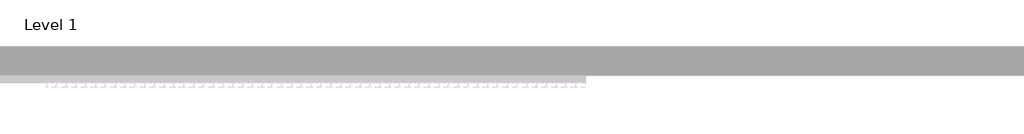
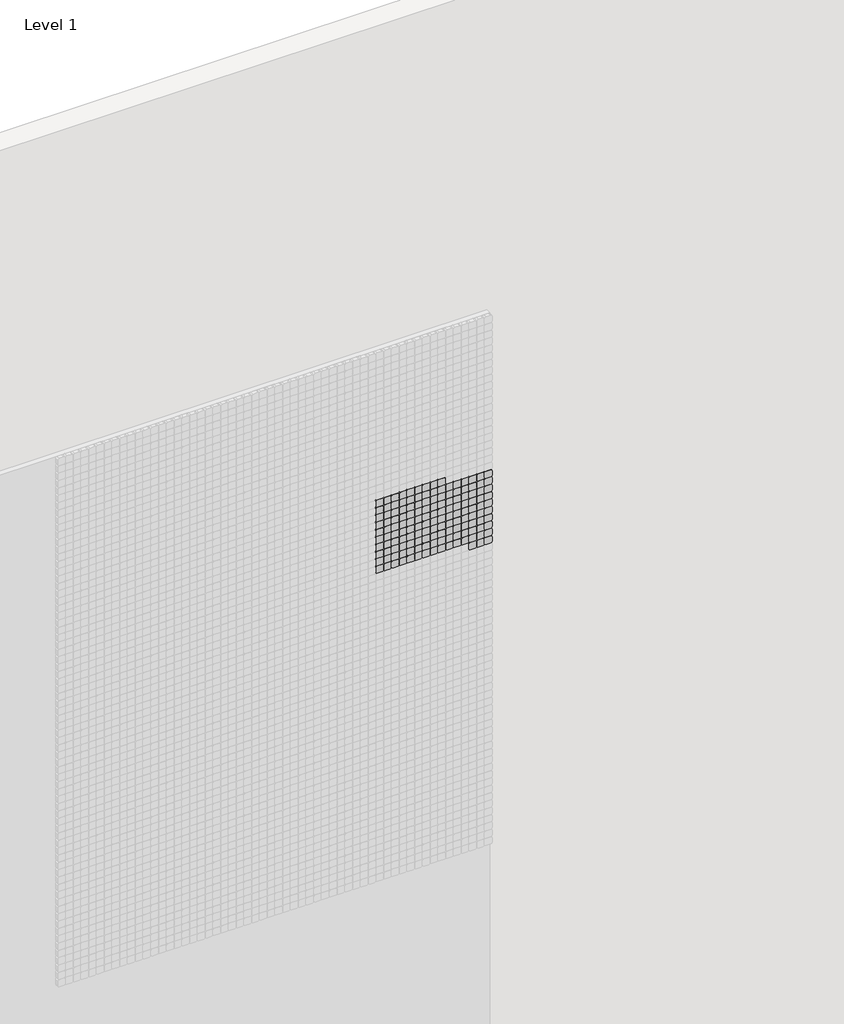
# One storey, part 64 of 71: 147 proxies.
"""IFC4 building model written with IfcOpenShell, lengths in millimetres."""

from ifc_helpers import new_model, si_unit, origin, place, context, project, spatial, transform, mapped, element, save
from components import generic_models_afde289c

model = new_model("IFC4")

# Units and contexts
model_context = context("Model", 3, world=origin())
ifc_project = project(units=[si_unit("LENGTHUNIT", "METRE", prefix="MILLI")], contexts=[model_context])

# Site, building, storey
site = spatial("IfcSite", under=ifc_project)
building = spatial("IfcBuilding", under=site)
storey = spatial("IfcBuildingStorey", under=building, Name="Level 1", Elevation=0.0)

# Proxies
placement = place(None, origin())
generic_models_shape = generic_models_afde289c(model_context)
element("IfcBuildingElementProxy", 1, Name="Pixel_M : Pixel_M", ObjectType="Pixel_M : Pixel_M", at=placement, inside=storey, context=model_context, shape_type="MappedRepresentation", body=[
    mapped(generic_models_shape, transform((9412.4280941, -75.0, 4966.3566215), x_axis=(1.0, 0.0, 0.0), y_axis=(0.0, 0.0, 1.0), z_axis=(0.0, -1.0, 0.0))),
])
element("IfcBuildingElementProxy", 2, Name="Pixel_M : Pixel_M", ObjectType="Pixel_M : Pixel_M", at=placement, inside=storey, context=model_context, shape_type="MappedRepresentation", body=[
    mapped(generic_models_shape, transform((9362.4280941, -75.0, 4966.3566215), x_axis=(1.0, 0.0, 0.0), y_axis=(0.0, 0.0, 1.0), z_axis=(0.0, -1.0, 0.0))),
])
element("IfcBuildingElementProxy", 3, Name="Pixel_M : Pixel_M", ObjectType="Pixel_M : Pixel_M", at=placement, inside=storey, context=model_context, shape_type="MappedRepresentation", body=[
    mapped(generic_models_shape, transform((9312.4280941, -75.0, 4966.3566215), x_axis=(1.0, 0.0, 0.0), y_axis=(0.0, 0.0, 1.0), z_axis=(0.0, -1.0, 0.0))),
])
element("IfcBuildingElementProxy", 4, Name="Pixel_M : Pixel_M", ObjectType="Pixel_M : Pixel_M", at=placement, inside=storey, context=model_context, shape_type="MappedRepresentation", body=[
    mapped(generic_models_shape, transform((9262.4280941, -75.0, 4966.3566215), x_axis=(1.0, 0.0, 0.0), y_axis=(0.0, 0.0, 1.0), z_axis=(0.0, -1.0, 0.0))),
])
element("IfcBuildingElementProxy", 5, Name="Pixel_M : Pixel_M", ObjectType="Pixel_M : Pixel_M", at=placement, inside=storey, context=model_context, shape_type="MappedRepresentation", body=[
    mapped(generic_models_shape, transform((9212.4280941, -75.0, 4966.3566215), x_axis=(1.0, 0.0, 0.0), y_axis=(0.0, 0.0, 1.0), z_axis=(0.0, -1.0, 0.0))),
])
element("IfcBuildingElementProxy", 6, Name="Pixel_M : Pixel_M", ObjectType="Pixel_M : Pixel_M", at=placement, inside=storey, context=model_context, shape_type="MappedRepresentation", body=[
    mapped(generic_models_shape, transform((9162.4280941, -75.0, 4966.3566215), x_axis=(1.0, 0.0, 0.0), y_axis=(0.0, 0.0, 1.0), z_axis=(0.0, -1.0, 0.0))),
])
element("IfcBuildingElementProxy", 7, Name="Pixel_M : Pixel_M", ObjectType="Pixel_M : Pixel_M", at=placement, inside=storey, context=model_context, shape_type="MappedRepresentation", body=[
    mapped(generic_models_shape, transform((9112.4280941, -75.0, 4966.3566215), x_axis=(1.0, 0.0, 0.0), y_axis=(0.0, 0.0, 1.0), z_axis=(0.0, -1.0, 0.0))),
])
element("IfcBuildingElementProxy", 8, Name="Pixel_M : Pixel_M", ObjectType="Pixel_M : Pixel_M", at=placement, inside=storey, context=model_context, shape_type="MappedRepresentation", body=[
    mapped(generic_models_shape, transform((9062.4280941, -75.0, 4966.3566215), x_axis=(1.0, 0.0, 0.0), y_axis=(0.0, 0.0, 1.0), z_axis=(0.0, -1.0, 0.0))),
])
element("IfcBuildingElementProxy", 9, Name="Pixel_M : Pixel_M", ObjectType="Pixel_M : Pixel_M", at=placement, inside=storey, context=model_context, shape_type="MappedRepresentation", body=[
    mapped(generic_models_shape, transform((9012.4280941, -75.0, 4966.3566215), x_axis=(1.0, 0.0, 0.0), y_axis=(0.0, 0.0, 1.0), z_axis=(0.0, -1.0, 0.0))),
])
element("IfcBuildingElementProxy", 10, Name="Pixel_M : Pixel_M", ObjectType="Pixel_M : Pixel_M", at=placement, inside=storey, context=model_context, shape_type="MappedRepresentation", body=[
    mapped(generic_models_shape, transform((9712.4280941, -75.0, 4916.3566215), x_axis=(1.0, 0.0, 0.0), y_axis=(0.0, 0.0, 1.0), z_axis=(0.0, -1.0, 0.0))),
])
element("IfcBuildingElementProxy", 11, Name="Pixel_M : Pixel_M", ObjectType="Pixel_M : Pixel_M", at=placement, inside=storey, context=model_context, shape_type="MappedRepresentation", body=[
    mapped(generic_models_shape, transform((9662.4280941, -75.0, 4916.3566215), x_axis=(1.0, 0.0, 0.0), y_axis=(0.0, 0.0, 1.0), z_axis=(0.0, -1.0, 0.0))),
])
element("IfcBuildingElementProxy", 12, Name="Pixel_M : Pixel_M", ObjectType="Pixel_M : Pixel_M", at=placement, inside=storey, context=model_context, shape_type="MappedRepresentation", body=[
    mapped(generic_models_shape, transform((9612.4280941, -75.0, 4916.3566215), x_axis=(1.0, 0.0, 0.0), y_axis=(0.0, 0.0, 1.0), z_axis=(0.0, -1.0, 0.0))),
])
element("IfcBuildingElementProxy", 13, Name="Pixel_M : Pixel_M", ObjectType="Pixel_M : Pixel_M", at=placement, inside=storey, context=model_context, shape_type="MappedRepresentation", body=[
    mapped(generic_models_shape, transform((9562.4280941, -75.0, 4916.3566215), x_axis=(1.0, 0.0, 0.0), y_axis=(0.0, 0.0, 1.0), z_axis=(0.0, -1.0, 0.0))),
])
element("IfcBuildingElementProxy", 14, Name="Pixel_M : Pixel_M", ObjectType="Pixel_M : Pixel_M", at=placement, inside=storey, context=model_context, shape_type="MappedRepresentation", body=[
    mapped(generic_models_shape, transform((9512.4280941, -75.0, 4916.3566215), x_axis=(1.0, 0.0, 0.0), y_axis=(0.0, 0.0, 1.0), z_axis=(0.0, -1.0, 0.0))),
])
element("IfcBuildingElementProxy", 15, Name="Pixel_M : Pixel_M", ObjectType="Pixel_M : Pixel_M", at=placement, inside=storey, context=model_context, shape_type="MappedRepresentation", body=[
    mapped(generic_models_shape, transform((9462.4280941, -75.0, 4916.3566215), x_axis=(1.0, 0.0, 0.0), y_axis=(0.0, 0.0, 1.0), z_axis=(0.0, -1.0, 0.0))),
])
element("IfcBuildingElementProxy", 16, Name="Pixel_M : Pixel_M", ObjectType="Pixel_M : Pixel_M", at=placement, inside=storey, context=model_context, shape_type="MappedRepresentation", body=[
    mapped(generic_models_shape, transform((9412.4280941, -75.0, 4916.3566215), x_axis=(1.0, 0.0, 0.0), y_axis=(0.0, 0.0, 1.0), z_axis=(0.0, -1.0, 0.0))),
])
element("IfcBuildingElementProxy", 17, Name="Pixel_M : Pixel_M", ObjectType="Pixel_M : Pixel_M", at=placement, inside=storey, context=model_context, shape_type="MappedRepresentation", body=[
    mapped(generic_models_shape, transform((9362.4280941, -75.0, 4916.3566215), x_axis=(1.0, 0.0, 0.0), y_axis=(0.0, 0.0, 1.0), z_axis=(0.0, -1.0, 0.0))),
])
element("IfcBuildingElementProxy", 18, Name="Pixel_M : Pixel_M", ObjectType="Pixel_M : Pixel_M", at=placement, inside=storey, context=model_context, shape_type="MappedRepresentation", body=[
    mapped(generic_models_shape, transform((9312.4280941, -75.0, 4916.3566215), x_axis=(1.0, 0.0, 0.0), y_axis=(0.0, 0.0, 1.0), z_axis=(0.0, -1.0, 0.0))),
])
element("IfcBuildingElementProxy", 19, Name="Pixel_M : Pixel_M", ObjectType="Pixel_M : Pixel_M", at=placement, inside=storey, context=model_context, shape_type="MappedRepresentation", body=[
    mapped(generic_models_shape, transform((9262.4280941, -75.0, 4916.3566215), x_axis=(1.0, 0.0, 0.0), y_axis=(0.0, 0.0, 1.0), z_axis=(0.0, -1.0, 0.0))),
])
element("IfcBuildingElementProxy", 20, Name="Pixel_M : Pixel_M", ObjectType="Pixel_M : Pixel_M", at=placement, inside=storey, context=model_context, shape_type="MappedRepresentation", body=[
    mapped(generic_models_shape, transform((9212.4280941, -75.0, 4916.3566215), x_axis=(1.0, 0.0, 0.0), y_axis=(0.0, 0.0, 1.0), z_axis=(0.0, -1.0, 0.0))),
])
element("IfcBuildingElementProxy", 21, Name="Pixel_M : Pixel_M", ObjectType="Pixel_M : Pixel_M", at=placement, inside=storey, context=model_context, shape_type="MappedRepresentation", body=[
    mapped(generic_models_shape, transform((9162.4280941, -75.0, 4916.3566215), x_axis=(1.0, 0.0, 0.0), y_axis=(0.0, 0.0, 1.0), z_axis=(0.0, -1.0, 0.0))),
])
element("IfcBuildingElementProxy", 22, Name="Pixel_M : Pixel_M", ObjectType="Pixel_M : Pixel_M", at=placement, inside=storey, context=model_context, shape_type="MappedRepresentation", body=[
    mapped(generic_models_shape, transform((9112.4280941, -75.0, 4916.3566215), x_axis=(1.0, 0.0, 0.0), y_axis=(0.0, 0.0, 1.0), z_axis=(0.0, -1.0, 0.0))),
])
element("IfcBuildingElementProxy", 23, Name="Pixel_M : Pixel_M", ObjectType="Pixel_M : Pixel_M", at=placement, inside=storey, context=model_context, shape_type="MappedRepresentation", body=[
    mapped(generic_models_shape, transform((9062.4280941, -75.0, 4916.3566215), x_axis=(1.0, 0.0, 0.0), y_axis=(0.0, 0.0, 1.0), z_axis=(0.0, -1.0, 0.0))),
])
element("IfcBuildingElementProxy", 24, Name="Pixel_M : Pixel_M", ObjectType="Pixel_M : Pixel_M", at=placement, inside=storey, context=model_context, shape_type="MappedRepresentation", body=[
    mapped(generic_models_shape, transform((9012.4280941, -75.0, 4916.3566215), x_axis=(1.0, 0.0, 0.0), y_axis=(0.0, 0.0, 1.0), z_axis=(0.0, -1.0, 0.0))),
])
element("IfcBuildingElementProxy", 25, Name="Pixel_M : Pixel_M", ObjectType="Pixel_M : Pixel_M", at=placement, inside=storey, context=model_context, shape_type="MappedRepresentation", body=[
    mapped(generic_models_shape, transform((9712.4280941, -75.0, 4866.3566215), x_axis=(1.0, 0.0, 0.0), y_axis=(0.0, 0.0, 1.0), z_axis=(0.0, -1.0, 0.0))),
])
element("IfcBuildingElementProxy", 26, Name="Pixel_M : Pixel_M", ObjectType="Pixel_M : Pixel_M", at=placement, inside=storey, context=model_context, shape_type="MappedRepresentation", body=[
    mapped(generic_models_shape, transform((9662.4280941, -75.0, 4866.3566215), x_axis=(1.0, 0.0, 0.0), y_axis=(0.0, 0.0, 1.0), z_axis=(0.0, -1.0, 0.0))),
])
element("IfcBuildingElementProxy", 27, Name="Pixel_M : Pixel_M", ObjectType="Pixel_M : Pixel_M", at=placement, inside=storey, context=model_context, shape_type="MappedRepresentation", body=[
    mapped(generic_models_shape, transform((9612.4280941, -75.0, 4866.3566215), x_axis=(1.0, 0.0, 0.0), y_axis=(0.0, 0.0, 1.0), z_axis=(0.0, -1.0, 0.0))),
])
element("IfcBuildingElementProxy", 28, Name="Pixel_M : Pixel_M", ObjectType="Pixel_M : Pixel_M", at=placement, inside=storey, context=model_context, shape_type="MappedRepresentation", body=[
    mapped(generic_models_shape, transform((9562.4280941, -75.0, 4866.3566215), x_axis=(1.0, 0.0, 0.0), y_axis=(0.0, 0.0, 1.0), z_axis=(0.0, -1.0, 0.0))),
])
element("IfcBuildingElementProxy", 29, Name="Pixel_M : Pixel_M", ObjectType="Pixel_M : Pixel_M", at=placement, inside=storey, context=model_context, shape_type="MappedRepresentation", body=[
    mapped(generic_models_shape, transform((9512.4280941, -75.0, 4866.3566215), x_axis=(1.0, 0.0, 0.0), y_axis=(0.0, 0.0, 1.0), z_axis=(0.0, -1.0, 0.0))),
])
element("IfcBuildingElementProxy", 30, Name="Pixel_M : Pixel_M", ObjectType="Pixel_M : Pixel_M", at=placement, inside=storey, context=model_context, shape_type="MappedRepresentation", body=[
    mapped(generic_models_shape, transform((9462.4280941, -75.0, 4866.3566215), x_axis=(1.0, 0.0, 0.0), y_axis=(0.0, 0.0, 1.0), z_axis=(0.0, -1.0, 0.0))),
])
element("IfcBuildingElementProxy", 31, Name="Pixel_M : Pixel_M", ObjectType="Pixel_M : Pixel_M", at=placement, inside=storey, context=model_context, shape_type="MappedRepresentation", body=[
    mapped(generic_models_shape, transform((9412.4280941, -75.0, 4866.3566215), x_axis=(1.0, 0.0, 0.0), y_axis=(0.0, 0.0, 1.0), z_axis=(0.0, -1.0, 0.0))),
])
element("IfcBuildingElementProxy", 32, Name="Pixel_M : Pixel_M", ObjectType="Pixel_M : Pixel_M", at=placement, inside=storey, context=model_context, shape_type="MappedRepresentation", body=[
    mapped(generic_models_shape, transform((9362.4280941, -75.0, 4866.3566215), x_axis=(1.0, 0.0, 0.0), y_axis=(0.0, 0.0, 1.0), z_axis=(0.0, -1.0, 0.0))),
])
element("IfcBuildingElementProxy", 33, Name="Pixel_M : Pixel_M", ObjectType="Pixel_M : Pixel_M", at=placement, inside=storey, context=model_context, shape_type="MappedRepresentation", body=[
    mapped(generic_models_shape, transform((9312.4280941, -75.0, 4866.3566215), x_axis=(1.0, 0.0, 0.0), y_axis=(0.0, 0.0, 1.0), z_axis=(0.0, -1.0, 0.0))),
])
element("IfcBuildingElementProxy", 34, Name="Pixel_M : Pixel_M", ObjectType="Pixel_M : Pixel_M", at=placement, inside=storey, context=model_context, shape_type="MappedRepresentation", body=[
    mapped(generic_models_shape, transform((9262.4280941, -75.0, 4866.3566215), x_axis=(1.0, 0.0, 0.0), y_axis=(0.0, 0.0, 1.0), z_axis=(0.0, -1.0, 0.0))),
])
element("IfcBuildingElementProxy", 35, Name="Pixel_M : Pixel_M", ObjectType="Pixel_M : Pixel_M", at=placement, inside=storey, context=model_context, shape_type="MappedRepresentation", body=[
    mapped(generic_models_shape, transform((9212.4280941, -75.0, 4866.3566215), x_axis=(1.0, 0.0, 0.0), y_axis=(0.0, 0.0, 1.0), z_axis=(0.0, -1.0, 0.0))),
])
element("IfcBuildingElementProxy", 36, Name="Pixel_M : Pixel_M", ObjectType="Pixel_M : Pixel_M", at=placement, inside=storey, context=model_context, shape_type="MappedRepresentation", body=[
    mapped(generic_models_shape, transform((9162.4280941, -75.0, 4866.3566215), x_axis=(1.0, 0.0, 0.0), y_axis=(0.0, 0.0, 1.0), z_axis=(0.0, -1.0, 0.0))),
])
element("IfcBuildingElementProxy", 37, Name="Pixel_M : Pixel_M", ObjectType="Pixel_M : Pixel_M", at=placement, inside=storey, context=model_context, shape_type="MappedRepresentation", body=[
    mapped(generic_models_shape, transform((9112.4280941, -75.0, 4866.3566215), x_axis=(1.0, 0.0, 0.0), y_axis=(0.0, 0.0, 1.0), z_axis=(0.0, -1.0, 0.0))),
])
element("IfcBuildingElementProxy", 38, Name="Pixel_M : Pixel_M", ObjectType="Pixel_M : Pixel_M", at=placement, inside=storey, context=model_context, shape_type="MappedRepresentation", body=[
    mapped(generic_models_shape, transform((9062.4280941, -75.0, 4866.3566215), x_axis=(1.0, 0.0, 0.0), y_axis=(0.0, 0.0, 1.0), z_axis=(0.0, -1.0, 0.0))),
])
element("IfcBuildingElementProxy", 39, Name="Pixel_M : Pixel_M", ObjectType="Pixel_M : Pixel_M", at=placement, inside=storey, context=model_context, shape_type="MappedRepresentation", body=[
    mapped(generic_models_shape, transform((9012.4280941, -75.0, 4866.3566215), x_axis=(1.0, 0.0, 0.0), y_axis=(0.0, 0.0, 1.0), z_axis=(0.0, -1.0, 0.0))),
])
element("IfcBuildingElementProxy", 40, Name="Pixel_M : Pixel_M", ObjectType="Pixel_M : Pixel_M", at=placement, inside=storey, context=model_context, shape_type="MappedRepresentation", body=[
    mapped(generic_models_shape, transform((9712.4280941, -75.0, 4816.3566215), x_axis=(1.0, 0.0, 0.0), y_axis=(0.0, 0.0, 1.0), z_axis=(0.0, -1.0, 0.0))),
])
element("IfcBuildingElementProxy", 41, Name="Pixel_M : Pixel_M", ObjectType="Pixel_M : Pixel_M", at=placement, inside=storey, context=model_context, shape_type="MappedRepresentation", body=[
    mapped(generic_models_shape, transform((9662.4280941, -75.0, 4816.3566215), x_axis=(1.0, 0.0, 0.0), y_axis=(0.0, 0.0, 1.0), z_axis=(0.0, -1.0, 0.0))),
])
element("IfcBuildingElementProxy", 42, Name="Pixel_M : Pixel_M", ObjectType="Pixel_M : Pixel_M", at=placement, inside=storey, context=model_context, shape_type="MappedRepresentation", body=[
    mapped(generic_models_shape, transform((9612.4280941, -75.0, 4816.3566215), x_axis=(1.0, 0.0, 0.0), y_axis=(0.0, 0.0, 1.0), z_axis=(0.0, -1.0, 0.0))),
])
element("IfcBuildingElementProxy", 43, Name="Pixel_M : Pixel_M", ObjectType="Pixel_M : Pixel_M", at=placement, inside=storey, context=model_context, shape_type="MappedRepresentation", body=[
    mapped(generic_models_shape, transform((9562.4280941, -75.0, 4816.3566215), x_axis=(1.0, 0.0, 0.0), y_axis=(0.0, 0.0, 1.0), z_axis=(0.0, -1.0, 0.0))),
])
element("IfcBuildingElementProxy", 44, Name="Pixel_M : Pixel_M", ObjectType="Pixel_M : Pixel_M", at=placement, inside=storey, context=model_context, shape_type="MappedRepresentation", body=[
    mapped(generic_models_shape, transform((9512.4280941, -75.0, 4816.3566215), x_axis=(1.0, 0.0, 0.0), y_axis=(0.0, 0.0, 1.0), z_axis=(0.0, -1.0, 0.0))),
])
element("IfcBuildingElementProxy", 45, Name="Pixel_M : Pixel_M", ObjectType="Pixel_M : Pixel_M", at=placement, inside=storey, context=model_context, shape_type="MappedRepresentation", body=[
    mapped(generic_models_shape, transform((9462.4280941, -75.0, 4816.3566215), x_axis=(1.0, 0.0, 0.0), y_axis=(0.0, 0.0, 1.0), z_axis=(0.0, -1.0, 0.0))),
])
element("IfcBuildingElementProxy", 46, Name="Pixel_M : Pixel_M", ObjectType="Pixel_M : Pixel_M", at=placement, inside=storey, context=model_context, shape_type="MappedRepresentation", body=[
    mapped(generic_models_shape, transform((9412.4280941, -75.0, 4816.3566215), x_axis=(1.0, 0.0, 0.0), y_axis=(0.0, 0.0, 1.0), z_axis=(0.0, -1.0, 0.0))),
])
element("IfcBuildingElementProxy", 47, Name="Pixel_M : Pixel_M", ObjectType="Pixel_M : Pixel_M", at=placement, inside=storey, context=model_context, shape_type="MappedRepresentation", body=[
    mapped(generic_models_shape, transform((9362.4280941, -75.0, 4816.3566215), x_axis=(1.0, 0.0, 0.0), y_axis=(0.0, 0.0, 1.0), z_axis=(0.0, -1.0, 0.0))),
])
element("IfcBuildingElementProxy", 48, Name="Pixel_M : Pixel_M", ObjectType="Pixel_M : Pixel_M", at=placement, inside=storey, context=model_context, shape_type="MappedRepresentation", body=[
    mapped(generic_models_shape, transform((9312.4280941, -75.0, 4816.3566215), x_axis=(1.0, 0.0, 0.0), y_axis=(0.0, 0.0, 1.0), z_axis=(0.0, -1.0, 0.0))),
])
element("IfcBuildingElementProxy", 49, Name="Pixel_M : Pixel_M", ObjectType="Pixel_M : Pixel_M", at=placement, inside=storey, context=model_context, shape_type="MappedRepresentation", body=[
    mapped(generic_models_shape, transform((9262.4280941, -75.0, 4816.3566215), x_axis=(1.0, 0.0, 0.0), y_axis=(0.0, 0.0, 1.0), z_axis=(0.0, -1.0, 0.0))),
])
element("IfcBuildingElementProxy", 50, Name="Pixel_M : Pixel_M", ObjectType="Pixel_M : Pixel_M", at=placement, inside=storey, context=model_context, shape_type="MappedRepresentation", body=[
    mapped(generic_models_shape, transform((9212.4280941, -75.0, 4816.3566215), x_axis=(1.0, 0.0, 0.0), y_axis=(0.0, 0.0, 1.0), z_axis=(0.0, -1.0, 0.0))),
])
element("IfcBuildingElementProxy", 51, Name="Pixel_M : Pixel_M", ObjectType="Pixel_M : Pixel_M", at=placement, inside=storey, context=model_context, shape_type="MappedRepresentation", body=[
    mapped(generic_models_shape, transform((9162.4280941, -75.0, 4816.3566215), x_axis=(1.0, 0.0, 0.0), y_axis=(0.0, 0.0, 1.0), z_axis=(0.0, -1.0, 0.0))),
])
element("IfcBuildingElementProxy", 52, Name="Pixel_M : Pixel_M", ObjectType="Pixel_M : Pixel_M", at=placement, inside=storey, context=model_context, shape_type="MappedRepresentation", body=[
    mapped(generic_models_shape, transform((9112.4280941, -75.0, 4816.3566215), x_axis=(1.0, 0.0, 0.0), y_axis=(0.0, 0.0, 1.0), z_axis=(0.0, -1.0, 0.0))),
])
element("IfcBuildingElementProxy", 53, Name="Pixel_M : Pixel_M", ObjectType="Pixel_M : Pixel_M", at=placement, inside=storey, context=model_context, shape_type="MappedRepresentation", body=[
    mapped(generic_models_shape, transform((9062.4280941, -75.0, 4816.3566215), x_axis=(1.0, 0.0, 0.0), y_axis=(0.0, 0.0, 1.0), z_axis=(0.0, -1.0, 0.0))),
])
element("IfcBuildingElementProxy", 54, Name="Pixel_M : Pixel_M", ObjectType="Pixel_M : Pixel_M", at=placement, inside=storey, context=model_context, shape_type="MappedRepresentation", body=[
    mapped(generic_models_shape, transform((9012.4280941, -75.0, 4816.3566215), x_axis=(1.0, 0.0, 0.0), y_axis=(0.0, 0.0, 1.0), z_axis=(0.0, -1.0, 0.0))),
])
element("IfcBuildingElementProxy", 55, Name="Pixel_M : Pixel_M", ObjectType="Pixel_M : Pixel_M", at=placement, inside=storey, context=model_context, shape_type="MappedRepresentation", body=[
    mapped(generic_models_shape, transform((9712.4280941, -75.0, 4766.3566215), x_axis=(1.0, 0.0, 0.0), y_axis=(0.0, 0.0, 1.0), z_axis=(0.0, -1.0, 0.0))),
])
element("IfcBuildingElementProxy", 56, Name="Pixel_M : Pixel_M", ObjectType="Pixel_M : Pixel_M", at=placement, inside=storey, context=model_context, shape_type="MappedRepresentation", body=[
    mapped(generic_models_shape, transform((9662.4280941, -75.0, 4766.3566215), x_axis=(1.0, 0.0, 0.0), y_axis=(0.0, 0.0, 1.0), z_axis=(0.0, -1.0, 0.0))),
])
element("IfcBuildingElementProxy", 57, Name="Pixel_M : Pixel_M", ObjectType="Pixel_M : Pixel_M", at=placement, inside=storey, context=model_context, shape_type="MappedRepresentation", body=[
    mapped(generic_models_shape, transform((9612.4280941, -75.0, 4766.3566215), x_axis=(1.0, 0.0, 0.0), y_axis=(0.0, 0.0, 1.0), z_axis=(0.0, -1.0, 0.0))),
])
element("IfcBuildingElementProxy", 58, Name="Pixel_M : Pixel_M", ObjectType="Pixel_M : Pixel_M", at=placement, inside=storey, context=model_context, shape_type="MappedRepresentation", body=[
    mapped(generic_models_shape, transform((9562.4280941, -75.0, 4766.3566215), x_axis=(1.0, 0.0, 0.0), y_axis=(0.0, 0.0, 1.0), z_axis=(0.0, -1.0, 0.0))),
])
element("IfcBuildingElementProxy", 59, Name="Pixel_M : Pixel_M", ObjectType="Pixel_M : Pixel_M", at=placement, inside=storey, context=model_context, shape_type="MappedRepresentation", body=[
    mapped(generic_models_shape, transform((9512.4280941, -75.0, 4766.3566215), x_axis=(1.0, 0.0, 0.0), y_axis=(0.0, 0.0, 1.0), z_axis=(0.0, -1.0, 0.0))),
])
element("IfcBuildingElementProxy", 60, Name="Pixel_M : Pixel_M", ObjectType="Pixel_M : Pixel_M", at=placement, inside=storey, context=model_context, shape_type="MappedRepresentation", body=[
    mapped(generic_models_shape, transform((9462.4280941, -75.0, 4766.3566215), x_axis=(1.0, 0.0, 0.0), y_axis=(0.0, 0.0, 1.0), z_axis=(0.0, -1.0, 0.0))),
])
element("IfcBuildingElementProxy", 61, Name="Pixel_M : Pixel_M", ObjectType="Pixel_M : Pixel_M", at=placement, inside=storey, context=model_context, shape_type="MappedRepresentation", body=[
    mapped(generic_models_shape, transform((9412.4280941, -75.0, 4766.3566215), x_axis=(1.0, 0.0, 0.0), y_axis=(0.0, 0.0, 1.0), z_axis=(0.0, -1.0, 0.0))),
])
element("IfcBuildingElementProxy", 62, Name="Pixel_M : Pixel_M", ObjectType="Pixel_M : Pixel_M", at=placement, inside=storey, context=model_context, shape_type="MappedRepresentation", body=[
    mapped(generic_models_shape, transform((9362.4280941, -75.0, 4766.3566215), x_axis=(1.0, 0.0, 0.0), y_axis=(0.0, 0.0, 1.0), z_axis=(0.0, -1.0, 0.0))),
])
element("IfcBuildingElementProxy", 63, Name="Pixel_M : Pixel_M", ObjectType="Pixel_M : Pixel_M", at=placement, inside=storey, context=model_context, shape_type="MappedRepresentation", body=[
    mapped(generic_models_shape, transform((9312.4280941, -75.0, 4766.3566215), x_axis=(1.0, 0.0, 0.0), y_axis=(0.0, 0.0, 1.0), z_axis=(0.0, -1.0, 0.0))),
])
element("IfcBuildingElementProxy", 64, Name="Pixel_M : Pixel_M", ObjectType="Pixel_M : Pixel_M", at=placement, inside=storey, context=model_context, shape_type="MappedRepresentation", body=[
    mapped(generic_models_shape, transform((9262.4280941, -75.0, 4766.3566215), x_axis=(1.0, 0.0, 0.0), y_axis=(0.0, 0.0, 1.0), z_axis=(0.0, -1.0, 0.0))),
])
element("IfcBuildingElementProxy", 65, Name="Pixel_M : Pixel_M", ObjectType="Pixel_M : Pixel_M", at=placement, inside=storey, context=model_context, shape_type="MappedRepresentation", body=[
    mapped(generic_models_shape, transform((9212.4280941, -75.0, 4766.3566215), x_axis=(1.0, 0.0, 0.0), y_axis=(0.0, 0.0, 1.0), z_axis=(0.0, -1.0, 0.0))),
])
element("IfcBuildingElementProxy", 66, Name="Pixel_M : Pixel_M", ObjectType="Pixel_M : Pixel_M", at=placement, inside=storey, context=model_context, shape_type="MappedRepresentation", body=[
    mapped(generic_models_shape, transform((9162.4280941, -75.0, 4766.3566215), x_axis=(1.0, 0.0, 0.0), y_axis=(0.0, 0.0, 1.0), z_axis=(0.0, -1.0, 0.0))),
])
element("IfcBuildingElementProxy", 67, Name="Pixel_M : Pixel_M", ObjectType="Pixel_M : Pixel_M", at=placement, inside=storey, context=model_context, shape_type="MappedRepresentation", body=[
    mapped(generic_models_shape, transform((9112.4280941, -75.0, 4766.3566215), x_axis=(1.0, 0.0, 0.0), y_axis=(0.0, 0.0, 1.0), z_axis=(0.0, -1.0, 0.0))),
])
element("IfcBuildingElementProxy", 68, Name="Pixel_M : Pixel_M", ObjectType="Pixel_M : Pixel_M", at=placement, inside=storey, context=model_context, shape_type="MappedRepresentation", body=[
    mapped(generic_models_shape, transform((9062.4280941, -75.0, 4766.3566215), x_axis=(1.0, 0.0, 0.0), y_axis=(0.0, 0.0, 1.0), z_axis=(0.0, -1.0, 0.0))),
])
element("IfcBuildingElementProxy", 69, Name="Pixel_M : Pixel_M", ObjectType="Pixel_M : Pixel_M", at=placement, inside=storey, context=model_context, shape_type="MappedRepresentation", body=[
    mapped(generic_models_shape, transform((9012.4280941, -75.0, 4766.3566215), x_axis=(1.0, 0.0, 0.0), y_axis=(0.0, 0.0, 1.0), z_axis=(0.0, -1.0, 0.0))),
])
element("IfcBuildingElementProxy", 70, Name="Pixel_M : Pixel_M", ObjectType="Pixel_M : Pixel_M", at=placement, inside=storey, context=model_context, shape_type="MappedRepresentation", body=[
    mapped(generic_models_shape, transform((9712.4280941, -75.0, 4716.3566215), x_axis=(1.0, 0.0, 0.0), y_axis=(0.0, 0.0, 1.0), z_axis=(0.0, -1.0, 0.0))),
])
element("IfcBuildingElementProxy", 71, Name="Pixel_M : Pixel_M", ObjectType="Pixel_M : Pixel_M", at=placement, inside=storey, context=model_context, shape_type="MappedRepresentation", body=[
    mapped(generic_models_shape, transform((9662.4280941, -75.0, 4716.3566215), x_axis=(1.0, 0.0, 0.0), y_axis=(0.0, 0.0, 1.0), z_axis=(0.0, -1.0, 0.0))),
])
element("IfcBuildingElementProxy", 72, Name="Pixel_M : Pixel_M", ObjectType="Pixel_M : Pixel_M", at=placement, inside=storey, context=model_context, shape_type="MappedRepresentation", body=[
    mapped(generic_models_shape, transform((9612.4280941, -75.0, 4716.3566215), x_axis=(1.0, 0.0, 0.0), y_axis=(0.0, 0.0, 1.0), z_axis=(0.0, -1.0, 0.0))),
])
element("IfcBuildingElementProxy", 73, Name="Pixel_M : Pixel_M", ObjectType="Pixel_M : Pixel_M", at=placement, inside=storey, context=model_context, shape_type="MappedRepresentation", body=[
    mapped(generic_models_shape, transform((9562.4280941, -75.0, 4716.3566215), x_axis=(1.0, 0.0, 0.0), y_axis=(0.0, 0.0, 1.0), z_axis=(0.0, -1.0, 0.0))),
])
element("IfcBuildingElementProxy", 74, Name="Pixel_M : Pixel_M", ObjectType="Pixel_M : Pixel_M", at=placement, inside=storey, context=model_context, shape_type="MappedRepresentation", body=[
    mapped(generic_models_shape, transform((9512.4280941, -75.0, 4716.3566215), x_axis=(1.0, 0.0, 0.0), y_axis=(0.0, 0.0, 1.0), z_axis=(0.0, -1.0, 0.0))),
])
element("IfcBuildingElementProxy", 75, Name="Pixel_M : Pixel_M", ObjectType="Pixel_M : Pixel_M", at=placement, inside=storey, context=model_context, shape_type="MappedRepresentation", body=[
    mapped(generic_models_shape, transform((9462.4280941, -75.0, 4716.3566215), x_axis=(1.0, 0.0, 0.0), y_axis=(0.0, 0.0, 1.0), z_axis=(0.0, -1.0, 0.0))),
])
element("IfcBuildingElementProxy", 76, Name="Pixel_M : Pixel_M", ObjectType="Pixel_M : Pixel_M", at=placement, inside=storey, context=model_context, shape_type="MappedRepresentation", body=[
    mapped(generic_models_shape, transform((9412.4280941, -75.0, 4716.3566215), x_axis=(1.0, 0.0, 0.0), y_axis=(0.0, 0.0, 1.0), z_axis=(0.0, -1.0, 0.0))),
])
element("IfcBuildingElementProxy", 77, Name="Pixel_M : Pixel_M", ObjectType="Pixel_M : Pixel_M", at=placement, inside=storey, context=model_context, shape_type="MappedRepresentation", body=[
    mapped(generic_models_shape, transform((9362.4280941, -75.0, 4716.3566215), x_axis=(1.0, 0.0, 0.0), y_axis=(0.0, 0.0, 1.0), z_axis=(0.0, -1.0, 0.0))),
])
element("IfcBuildingElementProxy", 78, Name="Pixel_M : Pixel_M", ObjectType="Pixel_M : Pixel_M", at=placement, inside=storey, context=model_context, shape_type="MappedRepresentation", body=[
    mapped(generic_models_shape, transform((9312.4280941, -75.0, 4716.3566215), x_axis=(1.0, 0.0, 0.0), y_axis=(0.0, 0.0, 1.0), z_axis=(0.0, -1.0, 0.0))),
])
element("IfcBuildingElementProxy", 79, Name="Pixel_M : Pixel_M", ObjectType="Pixel_M : Pixel_M", at=placement, inside=storey, context=model_context, shape_type="MappedRepresentation", body=[
    mapped(generic_models_shape, transform((9262.4280941, -75.0, 4716.3566215), x_axis=(1.0, 0.0, 0.0), y_axis=(0.0, 0.0, 1.0), z_axis=(0.0, -1.0, 0.0))),
])
element("IfcBuildingElementProxy", 80, Name="Pixel_M : Pixel_M", ObjectType="Pixel_M : Pixel_M", at=placement, inside=storey, context=model_context, shape_type="MappedRepresentation", body=[
    mapped(generic_models_shape, transform((9212.4280941, -75.0, 4716.3566215), x_axis=(1.0, 0.0, 0.0), y_axis=(0.0, 0.0, 1.0), z_axis=(0.0, -1.0, 0.0))),
])
element("IfcBuildingElementProxy", 81, Name="Pixel_M : Pixel_M", ObjectType="Pixel_M : Pixel_M", at=placement, inside=storey, context=model_context, shape_type="MappedRepresentation", body=[
    mapped(generic_models_shape, transform((9162.4280941, -75.0, 4716.3566215), x_axis=(1.0, 0.0, 0.0), y_axis=(0.0, 0.0, 1.0), z_axis=(0.0, -1.0, 0.0))),
])
element("IfcBuildingElementProxy", 82, Name="Pixel_M : Pixel_M", ObjectType="Pixel_M : Pixel_M", at=placement, inside=storey, context=model_context, shape_type="MappedRepresentation", body=[
    mapped(generic_models_shape, transform((9112.4280941, -75.0, 4716.3566215), x_axis=(1.0, 0.0, 0.0), y_axis=(0.0, 0.0, 1.0), z_axis=(0.0, -1.0, 0.0))),
])
element("IfcBuildingElementProxy", 83, Name="Pixel_M : Pixel_M", ObjectType="Pixel_M : Pixel_M", at=placement, inside=storey, context=model_context, shape_type="MappedRepresentation", body=[
    mapped(generic_models_shape, transform((9062.4280941, -75.0, 4716.3566215), x_axis=(1.0, 0.0, 0.0), y_axis=(0.0, 0.0, 1.0), z_axis=(0.0, -1.0, 0.0))),
])
element("IfcBuildingElementProxy", 84, Name="Pixel_M : Pixel_M", ObjectType="Pixel_M : Pixel_M", at=placement, inside=storey, context=model_context, shape_type="MappedRepresentation", body=[
    mapped(generic_models_shape, transform((9012.4280941, -75.0, 4716.3566215), x_axis=(1.0, 0.0, 0.0), y_axis=(0.0, 0.0, 1.0), z_axis=(0.0, -1.0, 0.0))),
])
element("IfcBuildingElementProxy", 85, Name="Pixel_M : Pixel_M", ObjectType="Pixel_M : Pixel_M", at=placement, inside=storey, context=model_context, shape_type="MappedRepresentation", body=[
    mapped(generic_models_shape, transform((9712.4280941, -75.0, 4666.3566215), x_axis=(1.0, 0.0, 0.0), y_axis=(0.0, 0.0, 1.0), z_axis=(0.0, -1.0, 0.0))),
])
element("IfcBuildingElementProxy", 86, Name="Pixel_M : Pixel_M", ObjectType="Pixel_M : Pixel_M", at=placement, inside=storey, context=model_context, shape_type="MappedRepresentation", body=[
    mapped(generic_models_shape, transform((9662.4280941, -75.0, 4666.3566215), x_axis=(1.0, 0.0, 0.0), y_axis=(0.0, 0.0, 1.0), z_axis=(0.0, -1.0, 0.0))),
])
element("IfcBuildingElementProxy", 87, Name="Pixel_M : Pixel_M", ObjectType="Pixel_M : Pixel_M", at=placement, inside=storey, context=model_context, shape_type="MappedRepresentation", body=[
    mapped(generic_models_shape, transform((9612.4280941, -75.0, 4666.3566215), x_axis=(1.0, 0.0, 0.0), y_axis=(0.0, 0.0, 1.0), z_axis=(0.0, -1.0, 0.0))),
])
element("IfcBuildingElementProxy", 88, Name="Pixel_M : Pixel_M", ObjectType="Pixel_M : Pixel_M", at=placement, inside=storey, context=model_context, shape_type="MappedRepresentation", body=[
    mapped(generic_models_shape, transform((9562.4280941, -75.0, 4666.3566215), x_axis=(1.0, 0.0, 0.0), y_axis=(0.0, 0.0, 1.0), z_axis=(0.0, -1.0, 0.0))),
])
element("IfcBuildingElementProxy", 89, Name="Pixel_M : Pixel_M", ObjectType="Pixel_M : Pixel_M", at=placement, inside=storey, context=model_context, shape_type="MappedRepresentation", body=[
    mapped(generic_models_shape, transform((9512.4280941, -75.0, 4666.3566215), x_axis=(1.0, 0.0, 0.0), y_axis=(0.0, 0.0, 1.0), z_axis=(0.0, -1.0, 0.0))),
])
element("IfcBuildingElementProxy", 90, Name="Pixel_M : Pixel_M", ObjectType="Pixel_M : Pixel_M", at=placement, inside=storey, context=model_context, shape_type="MappedRepresentation", body=[
    mapped(generic_models_shape, transform((9462.4280941, -75.0, 4666.3566215), x_axis=(1.0, 0.0, 0.0), y_axis=(0.0, 0.0, 1.0), z_axis=(0.0, -1.0, 0.0))),
])
element("IfcBuildingElementProxy", 91, Name="Pixel_M : Pixel_M", ObjectType="Pixel_M : Pixel_M", at=placement, inside=storey, context=model_context, shape_type="MappedRepresentation", body=[
    mapped(generic_models_shape, transform((9412.4280941, -75.0, 4666.3566215), x_axis=(1.0, 0.0, 0.0), y_axis=(0.0, 0.0, 1.0), z_axis=(0.0, -1.0, 0.0))),
])
element("IfcBuildingElementProxy", 92, Name="Pixel_M : Pixel_M", ObjectType="Pixel_M : Pixel_M", at=placement, inside=storey, context=model_context, shape_type="MappedRepresentation", body=[
    mapped(generic_models_shape, transform((9362.4280941, -75.0, 4666.3566215), x_axis=(1.0, 0.0, 0.0), y_axis=(0.0, 0.0, 1.0), z_axis=(0.0, -1.0, 0.0))),
])
element("IfcBuildingElementProxy", 93, Name="Pixel_M : Pixel_M", ObjectType="Pixel_M : Pixel_M", at=placement, inside=storey, context=model_context, shape_type="MappedRepresentation", body=[
    mapped(generic_models_shape, transform((9312.4280941, -75.0, 4666.3566215), x_axis=(1.0, 0.0, 0.0), y_axis=(0.0, 0.0, 1.0), z_axis=(0.0, -1.0, 0.0))),
])
element("IfcBuildingElementProxy", 94, Name="Pixel_M : Pixel_M", ObjectType="Pixel_M : Pixel_M", at=placement, inside=storey, context=model_context, shape_type="MappedRepresentation", body=[
    mapped(generic_models_shape, transform((9262.4280941, -75.0, 4666.3566215), x_axis=(1.0, 0.0, 0.0), y_axis=(0.0, 0.0, 1.0), z_axis=(0.0, -1.0, 0.0))),
])
element("IfcBuildingElementProxy", 95, Name="Pixel_M : Pixel_M", ObjectType="Pixel_M : Pixel_M", at=placement, inside=storey, context=model_context, shape_type="MappedRepresentation", body=[
    mapped(generic_models_shape, transform((9212.4280941, -75.0, 4666.3566215), x_axis=(1.0, 0.0, 0.0), y_axis=(0.0, 0.0, 1.0), z_axis=(0.0, -1.0, 0.0))),
])
element("IfcBuildingElementProxy", 96, Name="Pixel_M : Pixel_M", ObjectType="Pixel_M : Pixel_M", at=placement, inside=storey, context=model_context, shape_type="MappedRepresentation", body=[
    mapped(generic_models_shape, transform((9162.4280941, -75.0, 4666.3566215), x_axis=(1.0, 0.0, 0.0), y_axis=(0.0, 0.0, 1.0), z_axis=(0.0, -1.0, 0.0))),
])
element("IfcBuildingElementProxy", 97, Name="Pixel_M : Pixel_M", ObjectType="Pixel_M : Pixel_M", at=placement, inside=storey, context=model_context, shape_type="MappedRepresentation", body=[
    mapped(generic_models_shape, transform((9112.4280941, -75.0, 4666.3566215), x_axis=(1.0, 0.0, 0.0), y_axis=(0.0, 0.0, 1.0), z_axis=(0.0, -1.0, 0.0))),
])
element("IfcBuildingElementProxy", 98, Name="Pixel_M : Pixel_M", ObjectType="Pixel_M : Pixel_M", at=placement, inside=storey, context=model_context, shape_type="MappedRepresentation", body=[
    mapped(generic_models_shape, transform((9062.4280941, -75.0, 4666.3566215), x_axis=(1.0, 0.0, 0.0), y_axis=(0.0, 0.0, 1.0), z_axis=(0.0, -1.0, 0.0))),
])
element("IfcBuildingElementProxy", 99, Name="Pixel_M : Pixel_M", ObjectType="Pixel_M : Pixel_M", at=placement, inside=storey, context=model_context, shape_type="MappedRepresentation", body=[
    mapped(generic_models_shape, transform((9012.4280941, -75.0, 4666.3566215), x_axis=(1.0, 0.0, 0.0), y_axis=(0.0, 0.0, 1.0), z_axis=(0.0, -1.0, 0.0))),
])
element("IfcBuildingElementProxy", 100, Name="Pixel_M : Pixel_M", ObjectType="Pixel_M : Pixel_M", at=placement, inside=storey, context=model_context, shape_type="MappedRepresentation", body=[
    mapped(generic_models_shape, transform((9712.4280941, -75.0, 4616.3566215), x_axis=(1.0, 0.0, 0.0), y_axis=(0.0, 0.0, 1.0), z_axis=(0.0, -1.0, 0.0))),
])
element("IfcBuildingElementProxy", 101, Name="Pixel_M : Pixel_M", ObjectType="Pixel_M : Pixel_M", at=placement, inside=storey, context=model_context, shape_type="MappedRepresentation", body=[
    mapped(generic_models_shape, transform((9662.4280941, -75.0, 4616.3566215), x_axis=(1.0, 0.0, 0.0), y_axis=(0.0, 0.0, 1.0), z_axis=(0.0, -1.0, 0.0))),
])
element("IfcBuildingElementProxy", 102, Name="Pixel_M : Pixel_M", ObjectType="Pixel_M : Pixel_M", at=placement, inside=storey, context=model_context, shape_type="MappedRepresentation", body=[
    mapped(generic_models_shape, transform((9612.4280941, -75.0, 4616.3566215), x_axis=(1.0, 0.0, 0.0), y_axis=(0.0, 0.0, 1.0), z_axis=(0.0, -1.0, 0.0))),
])
element("IfcBuildingElementProxy", 103, Name="Pixel_M : Pixel_M", ObjectType="Pixel_M : Pixel_M", at=placement, inside=storey, context=model_context, shape_type="MappedRepresentation", body=[
    mapped(generic_models_shape, transform((9562.4280941, -75.0, 4616.3566215), x_axis=(1.0, 0.0, 0.0), y_axis=(0.0, 0.0, 1.0), z_axis=(0.0, -1.0, 0.0))),
])
element("IfcBuildingElementProxy", 104, Name="Pixel_M : Pixel_M", ObjectType="Pixel_M : Pixel_M", at=placement, inside=storey, context=model_context, shape_type="MappedRepresentation", body=[
    mapped(generic_models_shape, transform((9512.4280941, -75.0, 4616.3566215), x_axis=(1.0, 0.0, 0.0), y_axis=(0.0, 0.0, 1.0), z_axis=(0.0, -1.0, 0.0))),
])
element("IfcBuildingElementProxy", 105, Name="Pixel_M : Pixel_M", ObjectType="Pixel_M : Pixel_M", at=placement, inside=storey, context=model_context, shape_type="MappedRepresentation", body=[
    mapped(generic_models_shape, transform((9462.4280941, -75.0, 4616.3566215), x_axis=(1.0, 0.0, 0.0), y_axis=(0.0, 0.0, 1.0), z_axis=(0.0, -1.0, 0.0))),
])
element("IfcBuildingElementProxy", 106, Name="Pixel_M : Pixel_M", ObjectType="Pixel_M : Pixel_M", at=placement, inside=storey, context=model_context, shape_type="MappedRepresentation", body=[
    mapped(generic_models_shape, transform((9412.4280941, -75.0, 4616.3566215), x_axis=(1.0, 0.0, 0.0), y_axis=(0.0, 0.0, 1.0), z_axis=(0.0, -1.0, 0.0))),
])
element("IfcBuildingElementProxy", 107, Name="Pixel_M : Pixel_M", ObjectType="Pixel_M : Pixel_M", at=placement, inside=storey, context=model_context, shape_type="MappedRepresentation", body=[
    mapped(generic_models_shape, transform((9362.4280941, -75.0, 4616.3566215), x_axis=(1.0, 0.0, 0.0), y_axis=(0.0, 0.0, 1.0), z_axis=(0.0, -1.0, 0.0))),
])
element("IfcBuildingElementProxy", 108, Name="Pixel_M : Pixel_M", ObjectType="Pixel_M : Pixel_M", at=placement, inside=storey, context=model_context, shape_type="MappedRepresentation", body=[
    mapped(generic_models_shape, transform((9312.4280941, -75.0, 4616.3566215), x_axis=(1.0, 0.0, 0.0), y_axis=(0.0, 0.0, 1.0), z_axis=(0.0, -1.0, 0.0))),
])
element("IfcBuildingElementProxy", 109, Name="Pixel_M : Pixel_M", ObjectType="Pixel_M : Pixel_M", at=placement, inside=storey, context=model_context, shape_type="MappedRepresentation", body=[
    mapped(generic_models_shape, transform((9262.4280941, -75.0, 4616.3566215), x_axis=(1.0, 0.0, 0.0), y_axis=(0.0, 0.0, 1.0), z_axis=(0.0, -1.0, 0.0))),
])
element("IfcBuildingElementProxy", 110, Name="Pixel_M : Pixel_M", ObjectType="Pixel_M : Pixel_M", at=placement, inside=storey, context=model_context, shape_type="MappedRepresentation", body=[
    mapped(generic_models_shape, transform((9212.4280941, -75.0, 4616.3566215), x_axis=(1.0, 0.0, 0.0), y_axis=(0.0, 0.0, 1.0), z_axis=(0.0, -1.0, 0.0))),
])
element("IfcBuildingElementProxy", 111, Name="Pixel_M : Pixel_M", ObjectType="Pixel_M : Pixel_M", at=placement, inside=storey, context=model_context, shape_type="MappedRepresentation", body=[
    mapped(generic_models_shape, transform((9162.4280941, -75.0, 4616.3566215), x_axis=(1.0, 0.0, 0.0), y_axis=(0.0, 0.0, 1.0), z_axis=(0.0, -1.0, 0.0))),
])
element("IfcBuildingElementProxy", 112, Name="Pixel_M : Pixel_M", ObjectType="Pixel_M : Pixel_M", at=placement, inside=storey, context=model_context, shape_type="MappedRepresentation", body=[
    mapped(generic_models_shape, transform((9112.4280941, -75.0, 4616.3566215), x_axis=(1.0, 0.0, 0.0), y_axis=(0.0, 0.0, 1.0), z_axis=(0.0, -1.0, 0.0))),
])
element("IfcBuildingElementProxy", 113, Name="Pixel_M : Pixel_M", ObjectType="Pixel_M : Pixel_M", at=placement, inside=storey, context=model_context, shape_type="MappedRepresentation", body=[
    mapped(generic_models_shape, transform((9062.4280941, -75.0, 4616.3566215), x_axis=(1.0, 0.0, 0.0), y_axis=(0.0, 0.0, 1.0), z_axis=(0.0, -1.0, 0.0))),
])
element("IfcBuildingElementProxy", 114, Name="Pixel_M : Pixel_M", ObjectType="Pixel_M : Pixel_M", at=placement, inside=storey, context=model_context, shape_type="MappedRepresentation", body=[
    mapped(generic_models_shape, transform((9012.4280941, -75.0, 4616.3566215), x_axis=(1.0, 0.0, 0.0), y_axis=(0.0, 0.0, 1.0), z_axis=(0.0, -1.0, 0.0))),
])
element("IfcBuildingElementProxy", 115, Name="Pixel_M : Pixel_M", ObjectType="Pixel_M : Pixel_M", at=placement, inside=storey, context=model_context, shape_type="MappedRepresentation", body=[
    mapped(generic_models_shape, transform((9712.4280941, -75.0, 4566.3566215), x_axis=(1.0, 0.0, 0.0), y_axis=(0.0, 0.0, 1.0), z_axis=(0.0, -1.0, 0.0))),
])
element("IfcBuildingElementProxy", 116, Name="Pixel_M : Pixel_M", ObjectType="Pixel_M : Pixel_M", at=placement, inside=storey, context=model_context, shape_type="MappedRepresentation", body=[
    mapped(generic_models_shape, transform((9662.4280941, -75.0, 4566.3566215), x_axis=(1.0, 0.0, 0.0), y_axis=(0.0, 0.0, 1.0), z_axis=(0.0, -1.0, 0.0))),
])
element("IfcBuildingElementProxy", 117, Name="Pixel_M : Pixel_M", ObjectType="Pixel_M : Pixel_M", at=placement, inside=storey, context=model_context, shape_type="MappedRepresentation", body=[
    mapped(generic_models_shape, transform((9612.4280941, -75.0, 4566.3566215), x_axis=(1.0, 0.0, 0.0), y_axis=(0.0, 0.0, 1.0), z_axis=(0.0, -1.0, 0.0))),
])
element("IfcBuildingElementProxy", 118, Name="Pixel_M : Pixel_M", ObjectType="Pixel_M : Pixel_M", at=placement, inside=storey, context=model_context, shape_type="MappedRepresentation", body=[
    mapped(generic_models_shape, transform((9562.4280941, -75.0, 4566.3566215), x_axis=(1.0, 0.0, 0.0), y_axis=(0.0, 0.0, 1.0), z_axis=(0.0, -1.0, 0.0))),
])
element("IfcBuildingElementProxy", 119, Name="Pixel_M : Pixel_M", ObjectType="Pixel_M : Pixel_M", at=placement, inside=storey, context=model_context, shape_type="MappedRepresentation", body=[
    mapped(generic_models_shape, transform((9512.4280941, -75.0, 4566.3566215), x_axis=(1.0, 0.0, 0.0), y_axis=(0.0, 0.0, 1.0), z_axis=(0.0, -1.0, 0.0))),
])
element("IfcBuildingElementProxy", 120, Name="Pixel_M : Pixel_M", ObjectType="Pixel_M : Pixel_M", at=placement, inside=storey, context=model_context, shape_type="MappedRepresentation", body=[
    mapped(generic_models_shape, transform((9462.4280941, -75.0, 4566.3566215), x_axis=(1.0, 0.0, 0.0), y_axis=(0.0, 0.0, 1.0), z_axis=(0.0, -1.0, 0.0))),
])
element("IfcBuildingElementProxy", 121, Name="Pixel_M : Pixel_M", ObjectType="Pixel_M : Pixel_M", at=placement, inside=storey, context=model_context, shape_type="MappedRepresentation", body=[
    mapped(generic_models_shape, transform((9412.4280941, -75.0, 4566.3566215), x_axis=(1.0, 0.0, 0.0), y_axis=(0.0, 0.0, 1.0), z_axis=(0.0, -1.0, 0.0))),
])
element("IfcBuildingElementProxy", 122, Name="Pixel_M : Pixel_M", ObjectType="Pixel_M : Pixel_M", at=placement, inside=storey, context=model_context, shape_type="MappedRepresentation", body=[
    mapped(generic_models_shape, transform((9362.4280941, -75.0, 4566.3566215), x_axis=(1.0, 0.0, 0.0), y_axis=(0.0, 0.0, 1.0), z_axis=(0.0, -1.0, 0.0))),
])
element("IfcBuildingElementProxy", 123, Name="Pixel_M : Pixel_M", ObjectType="Pixel_M : Pixel_M", at=placement, inside=storey, context=model_context, shape_type="MappedRepresentation", body=[
    mapped(generic_models_shape, transform((9312.4280941, -75.0, 4566.3566215), x_axis=(1.0, 0.0, 0.0), y_axis=(0.0, 0.0, 1.0), z_axis=(0.0, -1.0, 0.0))),
])
element("IfcBuildingElementProxy", 124, Name="Pixel_M : Pixel_M", ObjectType="Pixel_M : Pixel_M", at=placement, inside=storey, context=model_context, shape_type="MappedRepresentation", body=[
    mapped(generic_models_shape, transform((9262.4280941, -75.0, 4566.3566215), x_axis=(1.0, 0.0, 0.0), y_axis=(0.0, 0.0, 1.0), z_axis=(0.0, -1.0, 0.0))),
])
element("IfcBuildingElementProxy", 125, Name="Pixel_M : Pixel_M", ObjectType="Pixel_M : Pixel_M", at=placement, inside=storey, context=model_context, shape_type="MappedRepresentation", body=[
    mapped(generic_models_shape, transform((9212.4280941, -75.0, 4566.3566215), x_axis=(1.0, 0.0, 0.0), y_axis=(0.0, 0.0, 1.0), z_axis=(0.0, -1.0, 0.0))),
])
element("IfcBuildingElementProxy", 126, Name="Pixel_M : Pixel_M", ObjectType="Pixel_M : Pixel_M", at=placement, inside=storey, context=model_context, shape_type="MappedRepresentation", body=[
    mapped(generic_models_shape, transform((9162.4280941, -75.0, 4566.3566215), x_axis=(1.0, 0.0, 0.0), y_axis=(0.0, 0.0, 1.0), z_axis=(0.0, -1.0, 0.0))),
])
element("IfcBuildingElementProxy", 127, Name="Pixel_M : Pixel_M", ObjectType="Pixel_M : Pixel_M", at=placement, inside=storey, context=model_context, shape_type="MappedRepresentation", body=[
    mapped(generic_models_shape, transform((9112.4280941, -75.0, 4566.3566215), x_axis=(1.0, 0.0, 0.0), y_axis=(0.0, 0.0, 1.0), z_axis=(0.0, -1.0, 0.0))),
])
element("IfcBuildingElementProxy", 128, Name="Pixel_M : Pixel_M", ObjectType="Pixel_M : Pixel_M", at=placement, inside=storey, context=model_context, shape_type="MappedRepresentation", body=[
    mapped(generic_models_shape, transform((9062.4280941, -75.0, 4566.3566215), x_axis=(1.0, 0.0, 0.0), y_axis=(0.0, 0.0, 1.0), z_axis=(0.0, -1.0, 0.0))),
])
element("IfcBuildingElementProxy", 129, Name="Pixel_M : Pixel_M", ObjectType="Pixel_M : Pixel_M", at=placement, inside=storey, context=model_context, shape_type="MappedRepresentation", body=[
    mapped(generic_models_shape, transform((9012.4280941, -75.0, 4566.3566215), x_axis=(1.0, 0.0, 0.0), y_axis=(0.0, 0.0, 1.0), z_axis=(0.0, -1.0, 0.0))),
])
element("IfcBuildingElementProxy", 130, Name="Pixel_M : Pixel_M", ObjectType="Pixel_M : Pixel_M", at=placement, inside=storey, context=model_context, shape_type="MappedRepresentation", body=[
    mapped(generic_models_shape, transform((9712.4280941, -75.0, 4516.3566215), x_axis=(1.0, 0.0, 0.0), y_axis=(0.0, 0.0, 1.0), z_axis=(0.0, -1.0, 0.0))),
])
element("IfcBuildingElementProxy", 131, Name="Pixel_M : Pixel_M", ObjectType="Pixel_M : Pixel_M", at=placement, inside=storey, context=model_context, shape_type="MappedRepresentation", body=[
    mapped(generic_models_shape, transform((9662.4280941, -75.0, 4516.3566215), x_axis=(1.0, 0.0, 0.0), y_axis=(0.0, 0.0, 1.0), z_axis=(0.0, -1.0, 0.0))),
])
element("IfcBuildingElementProxy", 132, Name="Pixel_M : Pixel_M", ObjectType="Pixel_M : Pixel_M", at=placement, inside=storey, context=model_context, shape_type="MappedRepresentation", body=[
    mapped(generic_models_shape, transform((9612.4280941, -75.0, 4516.3566215), x_axis=(1.0, 0.0, 0.0), y_axis=(0.0, 0.0, 1.0), z_axis=(0.0, -1.0, 0.0))),
])
element("IfcBuildingElementProxy", 133, Name="Pixel_M : Pixel_M", ObjectType="Pixel_M : Pixel_M", at=placement, inside=storey, context=model_context, shape_type="MappedRepresentation", body=[
    mapped(generic_models_shape, transform((9562.4280941, -75.0, 4516.3566215), x_axis=(1.0, 0.0, 0.0), y_axis=(0.0, 0.0, 1.0), z_axis=(0.0, -1.0, 0.0))),
])
element("IfcBuildingElementProxy", 134, Name="Pixel_M : Pixel_M", ObjectType="Pixel_M : Pixel_M", at=placement, inside=storey, context=model_context, shape_type="MappedRepresentation", body=[
    mapped(generic_models_shape, transform((9512.4280941, -75.0, 4516.3566215), x_axis=(1.0, 0.0, 0.0), y_axis=(0.0, 0.0, 1.0), z_axis=(0.0, -1.0, 0.0))),
])
element("IfcBuildingElementProxy", 135, Name="Pixel_M : Pixel_M", ObjectType="Pixel_M : Pixel_M", at=placement, inside=storey, context=model_context, shape_type="MappedRepresentation", body=[
    mapped(generic_models_shape, transform((9462.4280941, -75.0, 4516.3566215), x_axis=(1.0, 0.0, 0.0), y_axis=(0.0, 0.0, 1.0), z_axis=(0.0, -1.0, 0.0))),
])
element("IfcBuildingElementProxy", 136, Name="Pixel_M : Pixel_M", ObjectType="Pixel_M : Pixel_M", at=placement, inside=storey, context=model_context, shape_type="MappedRepresentation", body=[
    mapped(generic_models_shape, transform((9412.4280941, -75.0, 4516.3566215), x_axis=(1.0, 0.0, 0.0), y_axis=(0.0, 0.0, 1.0), z_axis=(0.0, -1.0, 0.0))),
])
element("IfcBuildingElementProxy", 137, Name="Pixel_M : Pixel_M", ObjectType="Pixel_M : Pixel_M", at=placement, inside=storey, context=model_context, shape_type="MappedRepresentation", body=[
    mapped(generic_models_shape, transform((9362.4280941, -75.0, 4516.3566215), x_axis=(1.0, 0.0, 0.0), y_axis=(0.0, 0.0, 1.0), z_axis=(0.0, -1.0, 0.0))),
])
element("IfcBuildingElementProxy", 138, Name="Pixel_M : Pixel_M", ObjectType="Pixel_M : Pixel_M", at=placement, inside=storey, context=model_context, shape_type="MappedRepresentation", body=[
    mapped(generic_models_shape, transform((9312.4280941, -75.0, 4516.3566215), x_axis=(1.0, 0.0, 0.0), y_axis=(0.0, 0.0, 1.0), z_axis=(0.0, -1.0, 0.0))),
])
element("IfcBuildingElementProxy", 139, Name="Pixel_M : Pixel_M", ObjectType="Pixel_M : Pixel_M", at=placement, inside=storey, context=model_context, shape_type="MappedRepresentation", body=[
    mapped(generic_models_shape, transform((9262.4280941, -75.0, 4516.3566215), x_axis=(1.0, 0.0, 0.0), y_axis=(0.0, 0.0, 1.0), z_axis=(0.0, -1.0, 0.0))),
])
element("IfcBuildingElementProxy", 140, Name="Pixel_M : Pixel_M", ObjectType="Pixel_M : Pixel_M", at=placement, inside=storey, context=model_context, shape_type="MappedRepresentation", body=[
    mapped(generic_models_shape, transform((9212.4280941, -75.0, 4516.3566215), x_axis=(1.0, 0.0, 0.0), y_axis=(0.0, 0.0, 1.0), z_axis=(0.0, -1.0, 0.0))),
])
element("IfcBuildingElementProxy", 141, Name="Pixel_M : Pixel_M", ObjectType="Pixel_M : Pixel_M", at=placement, inside=storey, context=model_context, shape_type="MappedRepresentation", body=[
    mapped(generic_models_shape, transform((9162.4280941, -75.0, 4516.3566215), x_axis=(1.0, 0.0, 0.0), y_axis=(0.0, 0.0, 1.0), z_axis=(0.0, -1.0, 0.0))),
])
element("IfcBuildingElementProxy", 142, Name="Pixel_M : Pixel_M", ObjectType="Pixel_M : Pixel_M", at=placement, inside=storey, context=model_context, shape_type="MappedRepresentation", body=[
    mapped(generic_models_shape, transform((9112.4280941, -75.0, 4516.3566215), x_axis=(1.0, 0.0, 0.0), y_axis=(0.0, 0.0, 1.0), z_axis=(0.0, -1.0, 0.0))),
])
element("IfcBuildingElementProxy", 143, Name="Pixel_M : Pixel_M", ObjectType="Pixel_M : Pixel_M", at=placement, inside=storey, context=model_context, shape_type="MappedRepresentation", body=[
    mapped(generic_models_shape, transform((9062.4280941, -75.0, 4516.3566215), x_axis=(1.0, 0.0, 0.0), y_axis=(0.0, 0.0, 1.0), z_axis=(0.0, -1.0, 0.0))),
])
element("IfcBuildingElementProxy", 144, Name="Pixel_M : Pixel_M", ObjectType="Pixel_M : Pixel_M", at=placement, inside=storey, context=model_context, shape_type="MappedRepresentation", body=[
    mapped(generic_models_shape, transform((9012.4280941, -75.0, 4516.3566215), x_axis=(1.0, 0.0, 0.0), y_axis=(0.0, 0.0, 1.0), z_axis=(0.0, -1.0, 0.0))),
])
element("IfcBuildingElementProxy", 145, Name="Pixel_M : Pixel_M", ObjectType="Pixel_M : Pixel_M", at=placement, inside=storey, context=model_context, shape_type="MappedRepresentation", body=[
    mapped(generic_models_shape, transform((9712.4280941, -75.0, 4466.3566215), x_axis=(1.0, 0.0, 0.0), y_axis=(0.0, 0.0, 1.0), z_axis=(0.0, -1.0, 0.0))),
])
element("IfcBuildingElementProxy", 146, Name="Pixel_M : Pixel_M", ObjectType="Pixel_M : Pixel_M", at=placement, inside=storey, context=model_context, shape_type="MappedRepresentation", body=[
    mapped(generic_models_shape, transform((9662.4280941, -75.0, 4466.3566215), x_axis=(1.0, 0.0, 0.0), y_axis=(0.0, 0.0, 1.0), z_axis=(0.0, -1.0, 0.0))),
])
element("IfcBuildingElementProxy", 147, Name="Pixel_M : Pixel_M", ObjectType="Pixel_M : Pixel_M", at=placement, inside=storey, context=model_context, shape_type="MappedRepresentation", body=[
    mapped(generic_models_shape, transform((9612.4280941, -75.0, 4466.3566215), x_axis=(1.0, 0.0, 0.0), y_axis=(0.0, 0.0, 1.0), z_axis=(0.0, -1.0, 0.0))),
])

save(model, "model.ifc")
